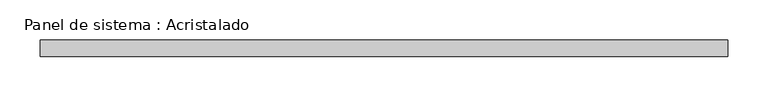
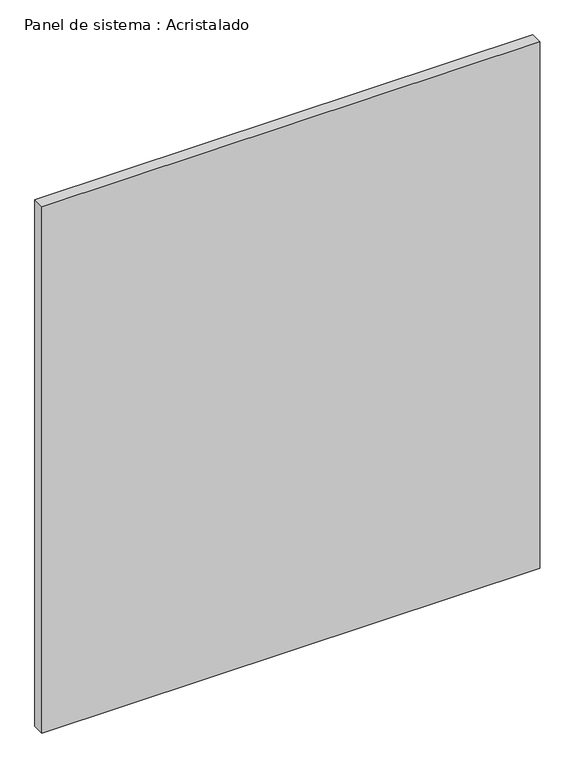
"""IFC4 building model written with IfcOpenShell, lengths in millimetres: plate geometry, Panel de sistema : Acristalado."""

from ifc_helpers import new_model, si_unit, origin, origin_with_axes, place, context, project, spatial, polyline, outline, extrude, source, transform, mapped, element, save


def panel_de_sistema_acristalado_433b9fea(model_context):
    return source(origin(), model_context, "Body", "SweptSolid", [
        extrude(outline(polyline([(425.0, -10.0), (-425.0, -10.0), (-425.0, 10.0), (425.0, 10.0), (425.0, -10.0)])), origin_with_axes(), (0.0, 0.0, 1.0), 950.0),
    ])


if __name__ == "__main__":
    model = new_model("IFC4")
    model_context = context("Model", 3, world=origin())
    ifc_project = project(units=[si_unit("LENGTHUNIT", "METRE", prefix="MILLI")], contexts=[model_context])
    site = spatial("IfcSite", under=ifc_project)
    building = spatial("IfcBuilding", under=site)
    placement = place(None, origin())
    panel_de_sistema_acristalado_shape = panel_de_sistema_acristalado_433b9fea(model_context)
    element("IfcPlate", 1, ObjectType="Panel de sistema : Acristalado", at=placement, inside=building, context=model_context, shape_type="MappedRepresentation", body=[
        mapped(panel_de_sistema_acristalado_shape, transform((0.0, 0.0, 0.0), x_axis=(1.0, 0.0, 0.0), y_axis=(0.0, 1.0, 0.0), z_axis=(0.0, 0.0, 1.0))),
    ])
    save(model, "model.ifc")
